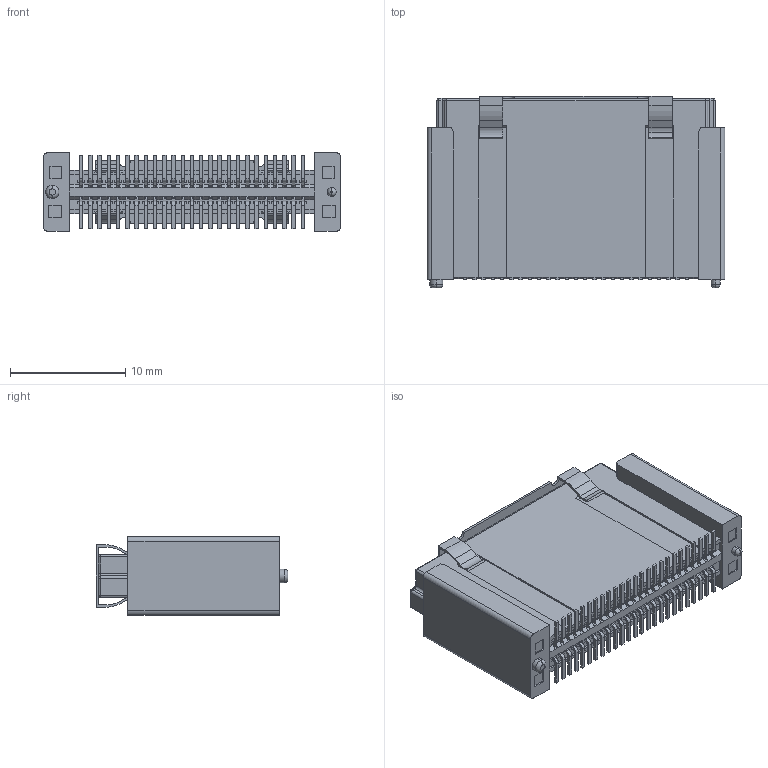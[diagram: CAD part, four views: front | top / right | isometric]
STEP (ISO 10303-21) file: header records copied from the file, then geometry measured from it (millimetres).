
FILE_DESCRIPTION (( 'STEP AP203' ), '1' );
FILE_NAME ('HC-PBB08-1-50-F-H15.7-XX-R-P-06 (BTB0.8 单槽 母座 立贴 带柱 编带+盖)-HCTL.STEP', '2025-12-19T05:53:11', ( '' ), ( '' ), 'SwSTEP 2.0', 'SolidWorks 2025', '' );
FILE_SCHEMA (( 'CONFIG_CONTROL_DESIGN' ));
Products named in the file (1): HC-PBB08-1-50-F-H15.7-XX-R-P-06 (BTB0.8 单槽 母座 立贴 带柱 编带+盖)-HCTL
Bounding box: 25.8 x 16.6 x 6.8 mm (x, y, z)
Volume: 1509.4 mm3; surface area: 3269.3 mm2
Topology: 2 solids, 2 shells, 2800 faces, 8528 edges, 5544 vertices
Faces by surface type: plane 2136, cylinder 644, bspline 8, cone 8, torus 4
Entity records: 96057 total; most frequent: CARTESIAN_POINT 19003, ORIENTED_EDGE 17056, DIRECTION 14994, EDGE_CURVE 8528, LINE 7208, VECTOR 7208, VERTEX_POINT 5544, AXIS2_PLACEMENT_3D 3893
